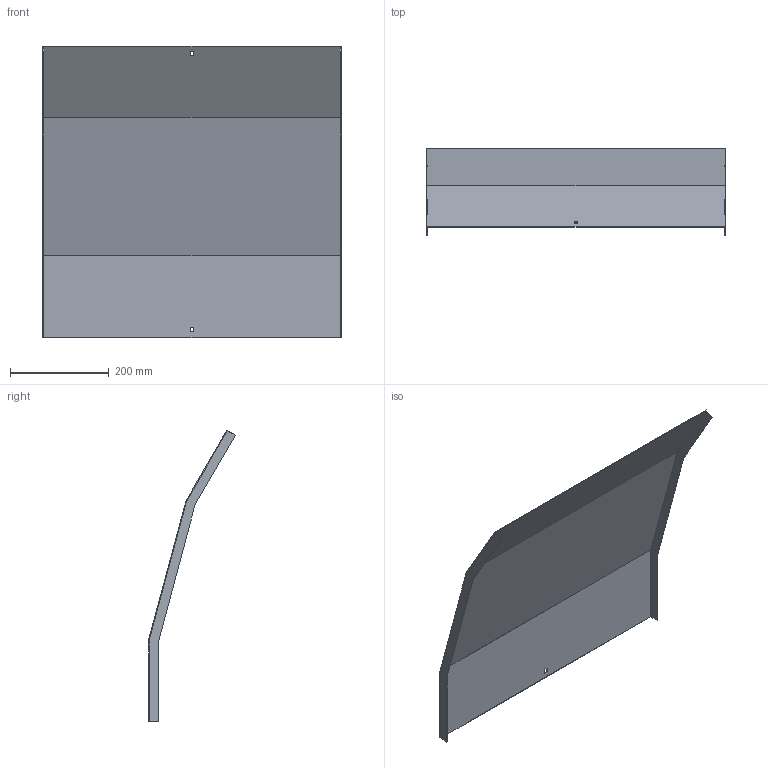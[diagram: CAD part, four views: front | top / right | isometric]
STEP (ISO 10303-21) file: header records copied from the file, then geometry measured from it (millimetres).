
FILE_DESCRIPTION (( 'STEP AP214' ), '1' );
FILE_NAME ('35N5D600.step', '2025-02-21T10:29:15', ( '' ), ( '' ), 'SwSTEP 2.0', 'SolidWorks 2023', '' );
FILE_SCHEMA (( 'AUTOMOTIVE_DESIGN' ));
Length unit declared in the file: millimetre
Products named in the file (1): 35N5D600
Bounding box: 603 x 175.26 x 589.45 mm (x, y, z)
Volume: 595824 mm3; surface area: 798279.2 mm2
Topology: 1 solids, 1 shells, 26 faces, 72 edges, 48 vertices
Faces by surface type: plane 26
Entity records: 847 total; most frequent: CARTESIAN_POINT 147, ORIENTED_EDGE 144, DIRECTION 126, VECTOR 72, LINE 72, EDGE_CURVE 72, VERTEX_POINT 48, EDGE_LOOP 30
